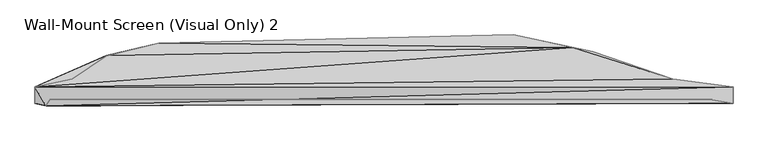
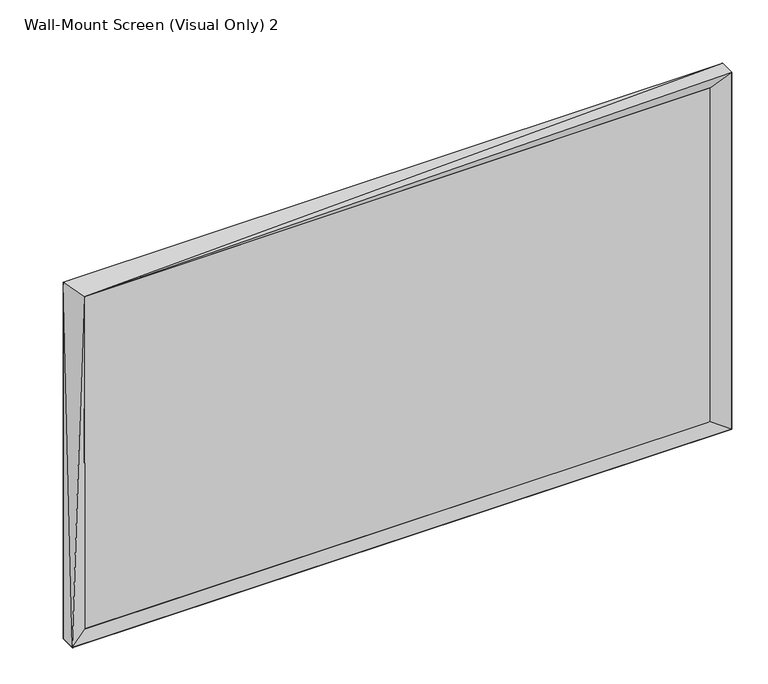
"""IFC4 building model written with IfcOpenShell, lengths in millimetres: furniture geometry, Wall-Mount Screen (Visual Only) 2 : 1.242 m x 0.102 m."""

from ifc_helpers import new_model, si_unit, origin, place, context, project, spatial, triangles, source, transform, mapped, element, save


def wall_mount_screen_visual_only_2_65ec691a(model_context):
    return source(origin(), model_context, "Body", "Tessellation", [
        triangles([(584.2849754, -14.174983, 279.1537638), (584.2853751, -14.1749944, 944.9175413), (-594.6308556, -14.1749864, 943.9256687), (-594.6308556, -14.1749751, 279.153673)], [[1, 2, 3], [3, 4, 1]], closed=False),
        triangles([(-400.3310512, 86.4604384, 347.0402633), (-400.3310148, 86.4603839, 726.8425529), (229.9079507, 101.4258676, 720.1061182), (371.0338932, 71.4949365, 333.0765807), (-555.0400672, 22.4214466, 304.5386606), (-621.0300436, 8.5578727, 964.9378309), (-494.5070615, 64.0121992, 792.481061), (336.0585571, 78.9776738, 743.9466688), (513.2581698, 22.4214149, 913.1107618), (-494.5070615, 64.0122129, 315.3575678), (513.2582788, 22.4214648, 304.5386606), (-601.4950441, -25.2258676, 949.3843472), (621.0300436, -20.6046517, 966.2649302), (621.0298983, 8.5578727, 966.2646395), (621.0300436, 8.5578971, 255.0649362), (621.0300436, -20.6046517, 255.0648999), (-621.0300436, -20.6046403, 255.0648999), (-621.0300436, 8.5578971, 255.0648999), (584.2849754, -14.9948219, 279.1536185), (-594.6308556, -14.9948219, 279.153564), (584.2851571, -14.9948446, 944.917396), (-594.6308556, -14.9948333, 943.9255234)], [[1, 2, 3], [3, 4, 1], [5, 6, 7], [8, 7, 6], [4, 8, 9], [9, 8, 6], [7, 10, 5], [11, 5, 10], [10, 4, 11], [9, 11, 4], [12, 13, 14], [14, 13, 15], [15, 16, 17], [13, 16, 15], [17, 12, 6], [6, 12, 14], [15, 17, 18], [17, 6, 18], [19, 20, 17], [12, 17, 20], [4, 3, 8], [8, 3, 2], [12, 21, 13], [16, 13, 21], [5, 11, 15], [14, 15, 11], [7, 2, 10], [8, 2, 7], [1, 4, 10], [2, 1, 10], [17, 16, 19], [21, 19, 16], [6, 5, 18], [15, 18, 5], [20, 22, 12], [21, 12, 22], [9, 6, 14], [11, 9, 14]], closed=False),
    ])


if __name__ == "__main__":
    model = new_model("IFC4")
    model_context = context("Model", 3, world=origin())
    ifc_project = project(units=[si_unit("LENGTHUNIT", "METRE", prefix="MILLI")], contexts=[model_context])
    site = spatial("IfcSite", under=ifc_project)
    building = spatial("IfcBuilding", under=site)
    placement = place(None, origin())
    wall_mount_screen_visual_only_2_shape = wall_mount_screen_visual_only_2_65ec691a(model_context)
    element("IfcFurniture", 1, ObjectType="Wall-Mount Screen (Visual Only) 2 : 1.242 m x 0.102 m", at=placement, inside=building, context=model_context, shape_type="MappedRepresentation", body=[
        mapped(wall_mount_screen_visual_only_2_shape, transform((0.0, 0.0, 0.0), x_axis=(1.0, 0.0, 0.0), y_axis=(0.0, 1.0, 0.0), z_axis=(0.0, 0.0, 1.0))),
    ])
    save(model, "model.ifc")
